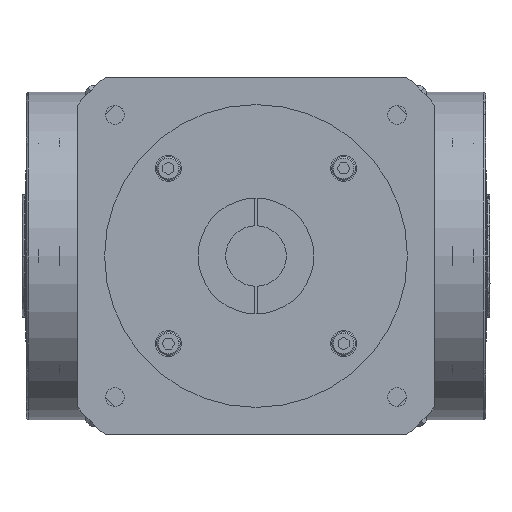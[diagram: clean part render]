
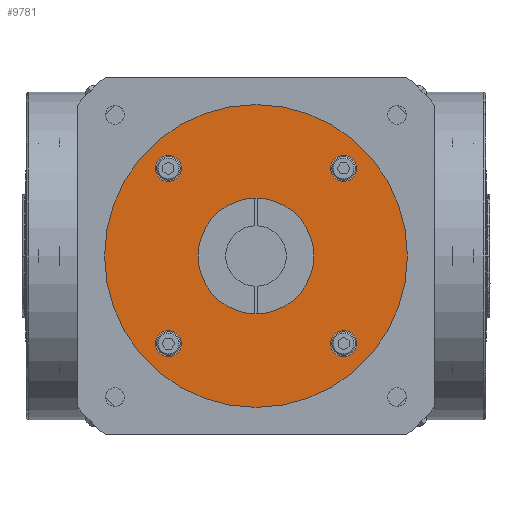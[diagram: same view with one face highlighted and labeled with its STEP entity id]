
A CAD part, front view. The second image highlights one B-rep face of the part: STEP entity #9781.
In plain terms, the highlighted planar face has unit normal (0, -1, 0).
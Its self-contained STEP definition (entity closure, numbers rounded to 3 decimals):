
#78 = AXIS2_PLACEMENT_3D ( 'NONE', #15360, #1991, #17630 ) ;
#1100 = ORIENTED_EDGE ( 'NONE', *, *, #23525, .T. ) ;
#1309 = DIRECTION ( 'NONE',  ( -1., 0., 0. ) ) ;
#1598 = ORIENTED_EDGE ( 'NONE', *, *, #15055, .F. ) ;
#1720 = CARTESIAN_POINT ( 'NONE',  ( 31.82, -40.5, 31.82 ) ) ;
#1744 = AXIS2_PLACEMENT_3D ( 'NONE', #8499, #24297, #10755 ) ;
#1991 = DIRECTION ( 'NONE',  ( 0., 1., 0. ) ) ;
#2435 = CIRCLE ( 'NONE', #7489, 4.75 ) ;
#2900 = EDGE_CURVE ( 'NONE', #18344, #5851, #6386, .T. ) ;
#2932 = FACE_BOUND ( 'NONE', #18990, .T. ) ;
#3119 = AXIS2_PLACEMENT_3D ( 'NONE', #6131, #21856, #8346 ) ;
#3423 = EDGE_CURVE ( 'NONE', #26525, #28750, #3885, .T. ) ;
#3668 = FACE_BOUND ( 'NONE', #18336, .T. ) ;
#3885 = CIRCLE ( 'NONE', #12333, 4.75 ) ;
#3993 = DIRECTION ( 'NONE',  ( -1., 0., 0. ) ) ;
#4040 = VERTEX_POINT ( 'NONE', #12523 ) ;
#4245 = ORIENTED_EDGE ( 'NONE', *, *, #10795, .T. ) ;
#4458 = CARTESIAN_POINT ( 'NONE',  ( -36.57, -40.5, -31.82 ) ) ;
#4724 = EDGE_CURVE ( 'NONE', #14639, #9772, #9622, .T. ) ;
#5051 = ORIENTED_EDGE ( 'NONE', *, *, #16914, .F. ) ;
#5101 = VERTEX_POINT ( 'NONE', #14073 ) ;
#5453 = VERTEX_POINT ( 'NONE', #6580 ) ;
#5666 = CARTESIAN_POINT ( 'NONE',  ( 31.82, -40.5, 31.82 ) ) ;
#5851 = VERTEX_POINT ( 'NONE', #10156 ) ;
#5936 = DIRECTION ( 'NONE',  ( 0., -1., 0. ) ) ;
#6131 = CARTESIAN_POINT ( 'NONE',  ( 31.82, -40.5, -31.82 ) ) ;
#6194 = DIRECTION ( 'NONE',  ( 0., 1., 0. ) ) ;
#6386 = CIRCLE ( 'NONE', #12503, 4.75 ) ;
#6580 = CARTESIAN_POINT ( 'NONE',  ( -21., -40.5, 0. ) ) ;
#6648 = CARTESIAN_POINT ( 'NONE',  ( -31.82, -40.5, -31.82 ) ) ;
#7428 = ORIENTED_EDGE ( 'NONE', *, *, #4724, .F. ) ;
#7489 = AXIS2_PLACEMENT_3D ( 'NONE', #1720, #17365, #3993 ) ;
#7883 = DIRECTION ( 'NONE',  ( -1., 0., 0. ) ) ;
#8004 = DIRECTION ( 'NONE',  ( 0., 1., 0. ) ) ;
#8248 = CIRCLE ( 'NONE', #20349, 21. ) ;
#8254 = DIRECTION ( 'NONE',  ( 0., 1., 0. ) ) ;
#8346 = DIRECTION ( 'NONE',  ( -1., 0., 0. ) ) ;
#8499 = CARTESIAN_POINT ( 'NONE',  ( 0., -40.5, 0. ) ) ;
#8516 = EDGE_CURVE ( 'NONE', #4040, #27868, #21370, .T. ) ;
#8872 = DIRECTION ( 'NONE',  ( -1., 0., 0. ) ) ;
#8887 = FACE_BOUND ( 'NONE', #8918, .T. ) ;
#8918 = EDGE_LOOP ( 'NONE', ( #11773, #15787 ) ) ;
#9622 = CIRCLE ( 'NONE', #12842, 4.75 ) ;
#9772 = VERTEX_POINT ( 'NONE', #19839 ) ;
#9781 = ADVANCED_FACE ( 'NONE', ( #3668, #8887, #26937, #2932, #26219, #14825 ), #15173, .F. ) ;
#10156 = CARTESIAN_POINT ( 'NONE',  ( 27.07, -40.5, 31.82 ) ) ;
#10755 = DIRECTION ( 'NONE',  ( 1., 0., 0. ) ) ;
#10795 = EDGE_CURVE ( 'NONE', #20028, #5453, #16868, .T. ) ;
#11273 = CARTESIAN_POINT ( 'NONE',  ( -31.82, -40.5, 31.82 ) ) ;
#11588 = AXIS2_PLACEMENT_3D ( 'NONE', #19581, #6194, #21915 ) ;
#11773 = ORIENTED_EDGE ( 'NONE', *, *, #3423, .F. ) ;
#12175 = ORIENTED_EDGE ( 'NONE', *, *, #20937, .F. ) ;
#12333 = AXIS2_PLACEMENT_3D ( 'NONE', #28324, #14657, #1309 ) ;
#12503 = AXIS2_PLACEMENT_3D ( 'NONE', #5666, #21360, #7883 ) ;
#12523 = CARTESIAN_POINT ( 'NONE',  ( -36.57, -40.5, 31.82 ) ) ;
#12789 = CARTESIAN_POINT ( 'NONE',  ( 31.82, -40.5, -31.82 ) ) ;
#12842 = AXIS2_PLACEMENT_3D ( 'NONE', #12789, #28685, #15025 ) ;
#13490 = DIRECTION ( 'NONE',  ( -1., 0., 0. ) ) ;
#13739 = EDGE_LOOP ( 'NONE', ( #1598, #15113 ) ) ;
#14073 = CARTESIAN_POINT ( 'NONE',  ( -55., -40.5, 0. ) ) ;
#14546 = CIRCLE ( 'NONE', #15382, 4.75 ) ;
#14632 = AXIS2_PLACEMENT_3D ( 'NONE', #19327, #5936, #21666 ) ;
#14639 = VERTEX_POINT ( 'NONE', #18392 ) ;
#14657 = DIRECTION ( 'NONE',  ( 0., -1., 0. ) ) ;
#14825 = FACE_BOUND ( 'NONE', #17544, .T. ) ;
#15025 = DIRECTION ( 'NONE',  ( -1., 0., 0. ) ) ;
#15055 = EDGE_CURVE ( 'NONE', #16871, #5101, #28244, .T. ) ;
#15113 = ORIENTED_EDGE ( 'NONE', *, *, #27441, .F. ) ;
#15133 = EDGE_CURVE ( 'NONE', #28750, #26525, #20007, .T. ) ;
#15173 = PLANE ( 'NONE',  #78 ) ;
#15360 = CARTESIAN_POINT ( 'NONE',  ( 0., -40.5, -55. ) ) ;
#15382 = AXIS2_PLACEMENT_3D ( 'NONE', #11273, #27123, #13490 ) ;
#15787 = ORIENTED_EDGE ( 'NONE', *, *, #15133, .F. ) ;
#16741 = AXIS2_PLACEMENT_3D ( 'NONE', #6648, #22429, #8872 ) ;
#16868 = CIRCLE ( 'NONE', #18268, 21. ) ;
#16871 = VERTEX_POINT ( 'NONE', #28528 ) ;
#16914 = EDGE_CURVE ( 'NONE', #9772, #14639, #20244, .T. ) ;
#17365 = DIRECTION ( 'NONE',  ( 0., -1., 0. ) ) ;
#17544 = EDGE_LOOP ( 'NONE', ( #4245, #1100 ) ) ;
#17630 = DIRECTION ( 'NONE',  ( 1., 0., 0. ) ) ;
#18268 = AXIS2_PLACEMENT_3D ( 'NONE', #21492, #8004, #23785 ) ;
#18336 = EDGE_LOOP ( 'NONE', ( #7428, #5051 ) ) ;
#18344 = VERTEX_POINT ( 'NONE', #29216 ) ;
#18392 = CARTESIAN_POINT ( 'NONE',  ( 27.07, -40.5, -31.82 ) ) ;
#18990 = EDGE_LOOP ( 'NONE', ( #12175, #27078 ) ) ;
#19327 = CARTESIAN_POINT ( 'NONE',  ( -31.82, -40.5, 31.82 ) ) ;
#19581 = CARTESIAN_POINT ( 'NONE',  ( 0., -40.5, 0. ) ) ;
#19839 = CARTESIAN_POINT ( 'NONE',  ( 36.57, -40.5, -31.82 ) ) ;
#20007 = CIRCLE ( 'NONE', #16741, 4.75 ) ;
#20028 = VERTEX_POINT ( 'NONE', #24192 ) ;
#20244 = CIRCLE ( 'NONE', #3119, 4.75 ) ;
#20349 = AXIS2_PLACEMENT_3D ( 'NONE', #21742, #8254, #24019 ) ;
#20937 = EDGE_CURVE ( 'NONE', #5851, #18344, #2435, .T. ) ;
#21360 = DIRECTION ( 'NONE',  ( 0., -1., 0. ) ) ;
#21370 = CIRCLE ( 'NONE', #14632, 4.75 ) ;
#21492 = CARTESIAN_POINT ( 'NONE',  ( 0., -40.5, 0. ) ) ;
#21666 = DIRECTION ( 'NONE',  ( -1., 0., 0. ) ) ;
#21742 = CARTESIAN_POINT ( 'NONE',  ( 0., -40.5, 0. ) ) ;
#21856 = DIRECTION ( 'NONE',  ( 0., -1., 0. ) ) ;
#21915 = DIRECTION ( 'NONE',  ( 1., 0., 0. ) ) ;
#22308 = ORIENTED_EDGE ( 'NONE', *, *, #8516, .F. ) ;
#22429 = DIRECTION ( 'NONE',  ( 0., -1., 0. ) ) ;
#23056 = CIRCLE ( 'NONE', #11588, 55. ) ;
#23200 = EDGE_CURVE ( 'NONE', #27868, #4040, #14546, .T. ) ;
#23385 = EDGE_LOOP ( 'NONE', ( #22308, #25159 ) ) ;
#23469 = CARTESIAN_POINT ( 'NONE',  ( -27.07, -40.5, 31.82 ) ) ;
#23525 = EDGE_CURVE ( 'NONE', #5453, #20028, #8248, .T. ) ;
#23785 = DIRECTION ( 'NONE',  ( 1., 0., 0. ) ) ;
#24019 = DIRECTION ( 'NONE',  ( 1., 0., 0. ) ) ;
#24192 = CARTESIAN_POINT ( 'NONE',  ( 21., -40.5, 0. ) ) ;
#24297 = DIRECTION ( 'NONE',  ( 0., 1., 0. ) ) ;
#25159 = ORIENTED_EDGE ( 'NONE', *, *, #23200, .F. ) ;
#26219 = FACE_OUTER_BOUND ( 'NONE', #13739, .T. ) ;
#26525 = VERTEX_POINT ( 'NONE', #4458 ) ;
#26937 = FACE_BOUND ( 'NONE', #23385, .T. ) ;
#27078 = ORIENTED_EDGE ( 'NONE', *, *, #2900, .F. ) ;
#27123 = DIRECTION ( 'NONE',  ( 0., -1., 0. ) ) ;
#27136 = CARTESIAN_POINT ( 'NONE',  ( -27.07, -40.5, -31.82 ) ) ;
#27441 = EDGE_CURVE ( 'NONE', #5101, #16871, #23056, .T. ) ;
#27868 = VERTEX_POINT ( 'NONE', #23469 ) ;
#28244 = CIRCLE ( 'NONE', #1744, 55. ) ;
#28324 = CARTESIAN_POINT ( 'NONE',  ( -31.82, -40.5, -31.82 ) ) ;
#28528 = CARTESIAN_POINT ( 'NONE',  ( 55., -40.5, 0. ) ) ;
#28685 = DIRECTION ( 'NONE',  ( 0., -1., 0. ) ) ;
#28750 = VERTEX_POINT ( 'NONE', #27136 ) ;
#29216 = CARTESIAN_POINT ( 'NONE',  ( 36.57, -40.5, 31.82 ) ) ;
